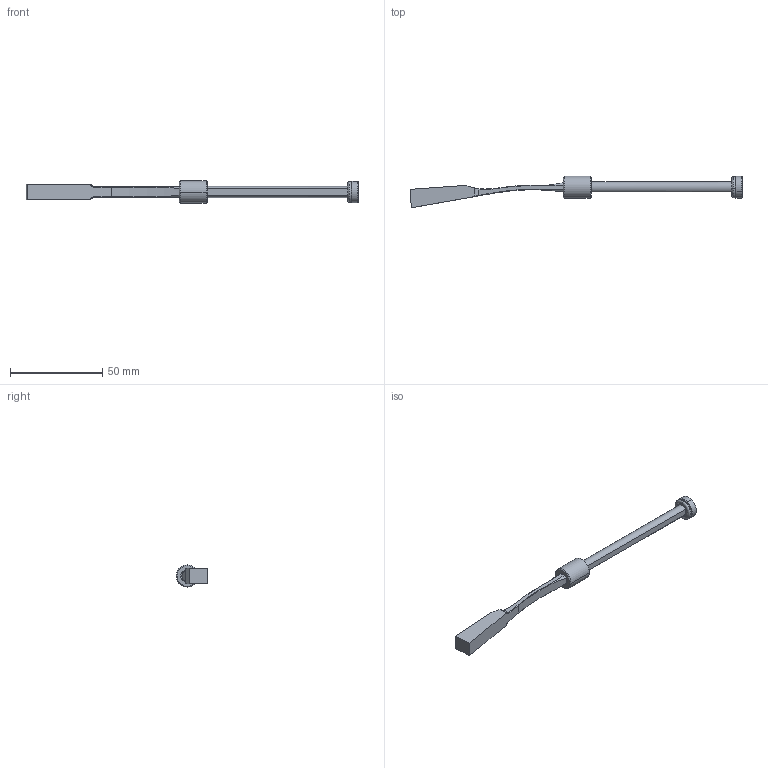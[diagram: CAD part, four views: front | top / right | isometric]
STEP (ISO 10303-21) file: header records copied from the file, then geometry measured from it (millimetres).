
FILE_DESCRIPTION (( 'STEP AP214' ), '1' );
FILE_NAME ('PW060830.STEP', '2020-02-10T08:41:26', ( '' ), ( '' ), 'SwSTEP 2.0', 'SolidWorks 2018', '' );
FILE_SCHEMA (( 'AUTOMOTIVE_DESIGN' ));
Length unit declared in the file: millimetre
Products named in the file (6): 3JT7.5X2X11.5; 1DIN7991416_DIN 7991 - M4 x 16 --- 16C; 9CS061215; 9PW060830; PW060830; 9FP1205M4
Assembly tree (5 placements, depth 2):
  PW060830
    9PW060830
    9FP1205M4
    3JT7.5X2X11.5
    1DIN7991416_DIN 7991 - M4 x 16 --- 16C
    9CS061215
Bounding box: 179.5 x 17.05 x 12 mm (x, y, z)
Volume: 7108.6 mm3; surface area: 6035.4 mm2
Topology: 5 solids, 5 shells, 102 faces, 227 edges, 132 vertices
Faces by surface type: plane 30, cone 28, cylinder 26, torus 14, bspline 4
Entity records: 3280 total; most frequent: CARTESIAN_POINT 700, DIRECTION 509, ORIENTED_EDGE 446, EDGE_CURVE 223, AXIS2_PLACEMENT_3D 206, VERTEX_POINT 132, EDGE_LOOP 109, ADVANCED_FACE 102
